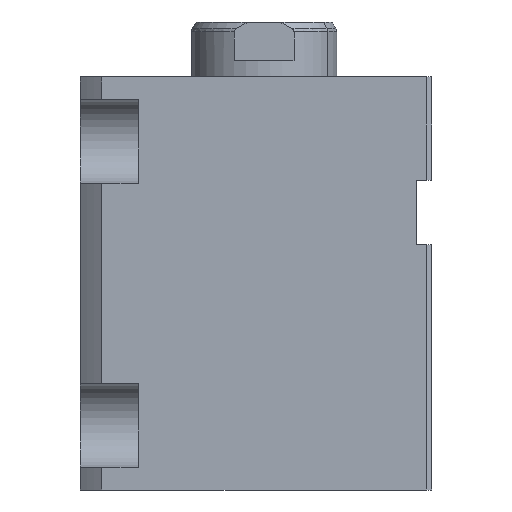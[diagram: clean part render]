
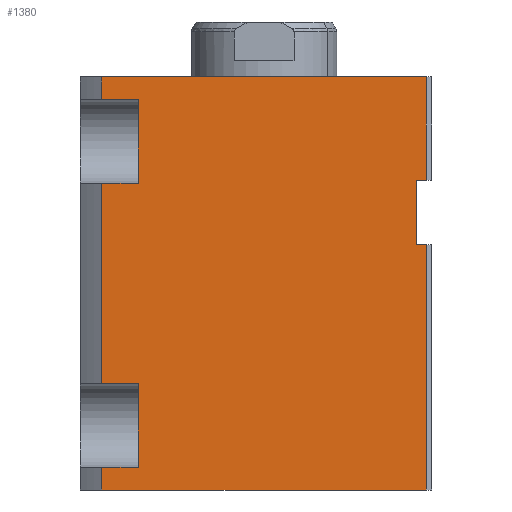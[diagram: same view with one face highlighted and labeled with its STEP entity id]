
A CAD part, left-side view. The second image highlights one B-rep face of the part: STEP entity #1380.
In plain terms, the highlighted planar face has unit normal (-1, 0, 0).
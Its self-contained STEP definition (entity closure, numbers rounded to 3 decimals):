
#249=CARTESIAN_POINT('Line Origine',(-71.,-50.279,64.)) ;
#253=CARTESIAN_POINT('Vertex',(-71.,-50.279,76.)) ;
#255=CARTESIAN_POINT('Vertex',(-71.,-50.279,0.)) ;
#410=CARTESIAN_POINT('Vertex',(-71.,-50.279,96.)) ;
#415=CARTESIAN_POINT('Line Origine',(-71.,-48.69,96.)) ;
#419=CARTESIAN_POINT('Vertex',(-71.,-47.1,96.)) ;
#793=CARTESIAN_POINT('Vertex',(-71.,-50.279,128.)) ;
#796=CARTESIAN_POINT('Line Origine',(-71.,-50.279,64.)) ;
#848=CARTESIAN_POINT('Line Origine',(-71.,-47.1,86.)) ;
#852=CARTESIAN_POINT('Vertex',(-71.,-47.1,76.)) ;
#945=CARTESIAN_POINT('Line Origine',(-71.,-48.69,76.)) ;
#1056=CARTESIAN_POINT('Vertex',(-71.,50.279,0.)) ;
#1064=CARTESIAN_POINT('Line Origine',(-71.,0.,0.)) ;
#1230=CARTESIAN_POINT('Vertex',(-71.,50.279,128.)) ;
#1233=CARTESIAN_POINT('Line Origine',(-71.,0.,128.)) ;
#1296=CARTESIAN_POINT('Axis2P3D Location',(-71.,57.,128.)) ;
#1301=CARTESIAN_POINT('Line Origine',(-71.,44.64,33.)) ;
#1305=CARTESIAN_POINT('Vertex',(-71.,50.279,33.)) ;
#1307=CARTESIAN_POINT('Vertex',(-71.,39.,33.)) ;
#1310=CARTESIAN_POINT('Line Origine',(-71.,39.,20.)) ;
#1314=CARTESIAN_POINT('Vertex',(-71.,39.,7.)) ;
#1317=CARTESIAN_POINT('Line Origine',(-71.,44.64,7.)) ;
#1321=CARTESIAN_POINT('Vertex',(-71.,50.279,7.)) ;
#1324=CARTESIAN_POINT('Line Origine',(-71.,50.279,3.5)) ;
#1329=CARTESIAN_POINT('Line Origine',(-71.,50.279,124.5)) ;
#1333=CARTESIAN_POINT('Vertex',(-71.,50.279,121.)) ;
#1336=CARTESIAN_POINT('Line Origine',(-71.,44.64,121.)) ;
#1340=CARTESIAN_POINT('Vertex',(-71.,39.,121.)) ;
#1343=CARTESIAN_POINT('Line Origine',(-71.,39.,108.)) ;
#1347=CARTESIAN_POINT('Vertex',(-71.,39.,95.)) ;
#1350=CARTESIAN_POINT('Line Origine',(-71.,44.64,95.)) ;
#1354=CARTESIAN_POINT('Vertex',(-71.,50.279,95.)) ;
#1357=CARTESIAN_POINT('Line Origine',(-71.,50.279,64.)) ;
#250=DIRECTION('Vector Direction',(0.,0.,1.)) ;
#416=DIRECTION('Vector Direction',(0.,1.,0.)) ;
#797=DIRECTION('Vector Direction',(0.,0.,1.)) ;
#849=DIRECTION('Vector Direction',(0.,0.,-1.)) ;
#946=DIRECTION('Vector Direction',(0.,1.,0.)) ;
#1065=DIRECTION('Vector Direction',(0.,-1.,0.)) ;
#1234=DIRECTION('Vector Direction',(0.,-1.,0.)) ;
#1297=DIRECTION('Axis2P3D Direction',(1.,0.,0.)) ;
#1298=DIRECTION('Axis2P3D XDirection',(0.,-1.,0.)) ;
#1302=DIRECTION('Vector Direction',(0.,-1.,0.)) ;
#1311=DIRECTION('Vector Direction',(0.,0.,-1.)) ;
#1318=DIRECTION('Vector Direction',(0.,-1.,0.)) ;
#1325=DIRECTION('Vector Direction',(0.,0.,-1.)) ;
#1330=DIRECTION('Vector Direction',(0.,0.,-1.)) ;
#1337=DIRECTION('Vector Direction',(0.,-1.,0.)) ;
#1344=DIRECTION('Vector Direction',(0.,0.,-1.)) ;
#1351=DIRECTION('Vector Direction',(0.,-1.,0.)) ;
#1358=DIRECTION('Vector Direction',(0.,0.,-1.)) ;
#1299=AXIS2_PLACEMENT_3D('Plane Axis2P3D',#1296,#1297,#1298) ;
#1363=ORIENTED_EDGE('',*,*,#1309,.T.) ;
#1364=ORIENTED_EDGE('',*,*,#1316,.T.) ;
#1365=ORIENTED_EDGE('',*,*,#1323,.F.) ;
#1366=ORIENTED_EDGE('',*,*,#1328,.T.) ;
#1367=ORIENTED_EDGE('',*,*,#1068,.T.) ;
#1368=ORIENTED_EDGE('',*,*,#257,.F.) ;
#1369=ORIENTED_EDGE('',*,*,#949,.T.) ;
#1370=ORIENTED_EDGE('',*,*,#854,.F.) ;
#1371=ORIENTED_EDGE('',*,*,#421,.F.) ;
#1372=ORIENTED_EDGE('',*,*,#800,.F.) ;
#1373=ORIENTED_EDGE('',*,*,#1237,.F.) ;
#1374=ORIENTED_EDGE('',*,*,#1335,.T.) ;
#1375=ORIENTED_EDGE('',*,*,#1342,.T.) ;
#1376=ORIENTED_EDGE('',*,*,#1349,.T.) ;
#1377=ORIENTED_EDGE('',*,*,#1356,.F.) ;
#1378=ORIENTED_EDGE('',*,*,#1361,.T.) ;
#251=VECTOR('Line Direction',#250,1.) ;
#417=VECTOR('Line Direction',#416,1.) ;
#798=VECTOR('Line Direction',#797,1.) ;
#850=VECTOR('Line Direction',#849,1.) ;
#947=VECTOR('Line Direction',#946,1.) ;
#1066=VECTOR('Line Direction',#1065,1.) ;
#1235=VECTOR('Line Direction',#1234,1.) ;
#1303=VECTOR('Line Direction',#1302,1.) ;
#1312=VECTOR('Line Direction',#1311,1.) ;
#1319=VECTOR('Line Direction',#1318,1.) ;
#1326=VECTOR('Line Direction',#1325,1.) ;
#1331=VECTOR('Line Direction',#1330,1.) ;
#1338=VECTOR('Line Direction',#1337,1.) ;
#1345=VECTOR('Line Direction',#1344,1.) ;
#1352=VECTOR('Line Direction',#1351,1.) ;
#1359=VECTOR('Line Direction',#1358,1.) ;
#1380=ADVANCED_FACE('PartBody',(#1379),#1300,.F.) ;
#257=EDGE_CURVE('',#254,#256,#252,.F.) ;
#421=EDGE_CURVE('',#411,#420,#418,.T.) ;
#800=EDGE_CURVE('',#794,#411,#799,.F.) ;
#854=EDGE_CURVE('',#420,#853,#851,.T.) ;
#949=EDGE_CURVE('',#254,#853,#948,.T.) ;
#1068=EDGE_CURVE('',#1057,#256,#1067,.T.) ;
#1237=EDGE_CURVE('',#1231,#794,#1236,.T.) ;
#1309=EDGE_CURVE('',#1306,#1308,#1304,.T.) ;
#1316=EDGE_CURVE('',#1308,#1315,#1313,.T.) ;
#1323=EDGE_CURVE('',#1322,#1315,#1320,.T.) ;
#1328=EDGE_CURVE('',#1322,#1057,#1327,.T.) ;
#1335=EDGE_CURVE('',#1231,#1334,#1332,.T.) ;
#1342=EDGE_CURVE('',#1334,#1341,#1339,.T.) ;
#1349=EDGE_CURVE('',#1341,#1348,#1346,.T.) ;
#1356=EDGE_CURVE('',#1355,#1348,#1353,.T.) ;
#1361=EDGE_CURVE('',#1355,#1306,#1360,.T.) ;
#1362=EDGE_LOOP('',(#1363,#1364,#1365,#1366,#1367,#1368,#1369,#1370,#1371,#1372,#1373,#1374,#1375,#1376,#1377,#1378)) ;
#1379=FACE_OUTER_BOUND('',#1362,.T.) ;
#252=LINE('Line',#249,#251) ;
#418=LINE('Line',#415,#417) ;
#799=LINE('Line',#796,#798) ;
#851=LINE('Line',#848,#850) ;
#948=LINE('Line',#945,#947) ;
#1067=LINE('Line',#1064,#1066) ;
#1236=LINE('Line',#1233,#1235) ;
#1304=LINE('Line',#1301,#1303) ;
#1313=LINE('Line',#1310,#1312) ;
#1320=LINE('Line',#1317,#1319) ;
#1327=LINE('Line',#1324,#1326) ;
#1332=LINE('Line',#1329,#1331) ;
#1339=LINE('Line',#1336,#1338) ;
#1346=LINE('Line',#1343,#1345) ;
#1353=LINE('Line',#1350,#1352) ;
#1360=LINE('Line',#1357,#1359) ;
#1300=PLANE('Plane',#1299) ;
#254=VERTEX_POINT('',#253) ;
#256=VERTEX_POINT('',#255) ;
#411=VERTEX_POINT('',#410) ;
#420=VERTEX_POINT('',#419) ;
#794=VERTEX_POINT('',#793) ;
#853=VERTEX_POINT('',#852) ;
#1057=VERTEX_POINT('',#1056) ;
#1231=VERTEX_POINT('',#1230) ;
#1306=VERTEX_POINT('',#1305) ;
#1308=VERTEX_POINT('',#1307) ;
#1315=VERTEX_POINT('',#1314) ;
#1322=VERTEX_POINT('',#1321) ;
#1334=VERTEX_POINT('',#1333) ;
#1341=VERTEX_POINT('',#1340) ;
#1348=VERTEX_POINT('',#1347) ;
#1355=VERTEX_POINT('',#1354) ;
